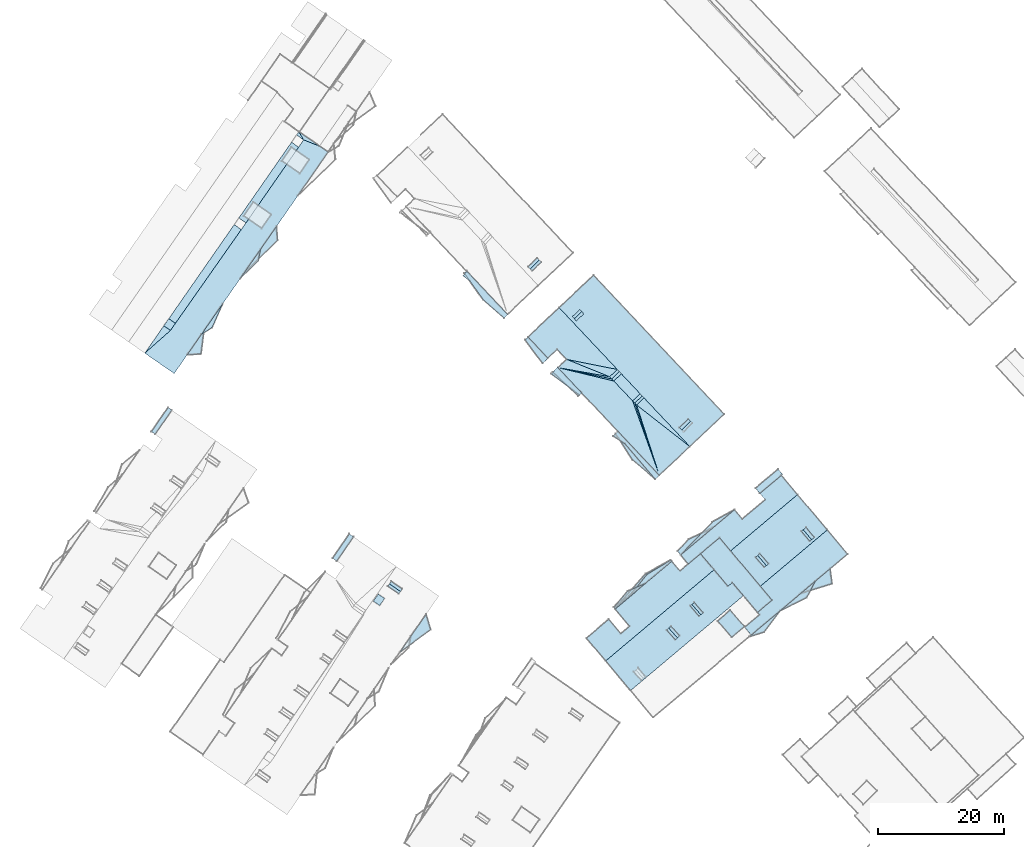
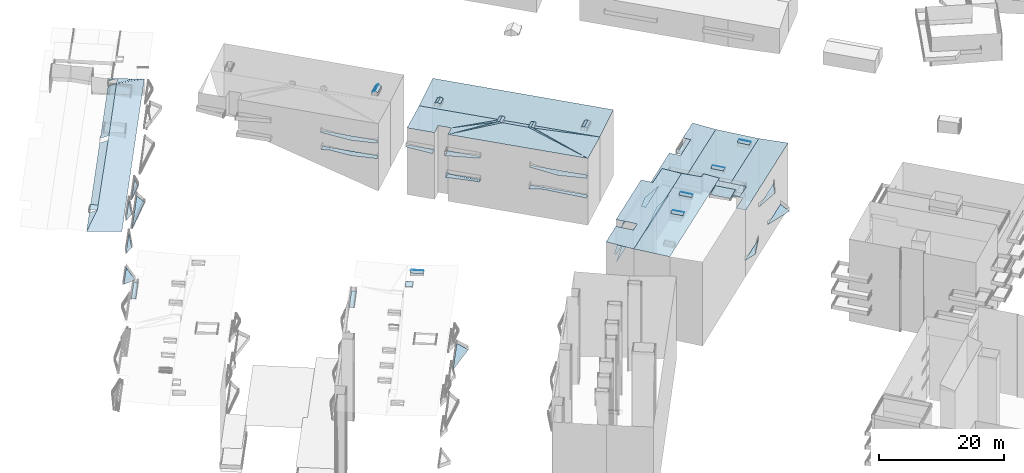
# Not in any storey, part 130 of 136: 111 roofs.
"""IFC2X3 building model written with IfcOpenShell, lengths in metres."""

from ifc_helpers import new_model, entity, si_unit, converted_unit, frame, origin, place, context, subcontext, project, spatial, face_set, surface_model, element, save


model = new_model("IFC2X3")

# Units and contexts
model_context = context("Model", 3, precision=1e-05, world=origin())
body_context = subcontext(model_context, "Body", "Model", "MODEL_VIEW")
ifc_project = project(units=[converted_unit("PLANEANGLEUNIT", "DEGREE", entity("IfcRatioMeasure", 0.0174532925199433), si_unit("PLANEANGLEUNIT", "RADIAN"), dimensions=[0, 0, 0, 0, 0, 0, 0]), si_unit("AREAUNIT", "SQUARE_METRE"), si_unit("LENGTHUNIT", "METRE")], contexts=[model_context])

# Site, building
site_placement = place(None, origin())
site = spatial("IfcSite", under=ifc_project, at=site_placement, Name="_site", CompositionType="ELEMENT")
building_1_placement = place(site_placement, origin())
building_1 = spatial("IfcBuilding", under=site, at=building_1_placement, Name="_building", CompositionType="ELEMENT")

# Roofs
for number, where, name in (
    (1, (0.0, 0.0, 0.0), "Roof"),
    (2, (0.0, 0.0, 0.0), "Roof"),
):
    element("IfcRoof", number, at=place(building_1_placement, frame(where)), inside=building_1, Name=name, ShapeType="NOTDEFINED", context=body_context, shape_type="SurfaceModel", body=[
        surface_model("IfcFaceBasedSurfaceModel", [(26.69, 109.49, 51.65), (27.87, 110.61, 51.65), (27.56, 110.94, 51.47), (26.38, 109.82, 51.47)], [face_set([[[0, 1, 2, 3]]])]),
    ])
for number, where, name in (
    (3, (0.0, 0.0, 0.0), "Roof"),
    (4, (0.0, 0.0, 0.0), "Roof"),
):
    element("IfcRoof", number, at=place(building_1_placement, frame(where)), inside=building_1, Name=name, ShapeType="NOTDEFINED", context=body_context, shape_type="SurfaceModel", body=[
        surface_model("IfcFaceBasedSurfaceModel", [(26.69, 109.49, 51.65), (27.02, 109.14, 51.49), (28.2, 110.26, 51.49), (27.87, 110.61, 51.65)], [face_set([[[0, 1, 2, 3]]])]),
    ])
roof_1_placement = place(building_1_placement, origin())
element("IfcRoof", 5, at=roof_1_placement, inside=building_1, Name="Roof", ShapeType="NOTDEFINED", context=body_context, shape_type="SurfaceModel", body=[
    surface_model("IfcFaceBasedSurfaceModel", [(44.98, 89.26, 50.8), (50.43, 94.4, 51.09), (29.77, 116.36, 51.15), (24.31, 111.23, 50.8), (33.503, 101.462, 50.8), (33.83, 101.12, 50.8), (34.149, 100.77, 50.8), (37.09, 97.64, 50.8), (37.43, 97.28, 50.8), (37.711, 96.981, 50.8)], [face_set([[[0, 1, 2, 3, 4, 5, 6, 7, 8, 9]]])]),
])
for number, where, name in (
    (6, (0.0, 0.0, 0.0), "Roof"),
    (7, (0.0, 0.0, 0.0), "Roof"),
):
    element("IfcRoof", number, at=place(building_1_placement, frame(where)), inside=building_1, Name=name, ShapeType="NOTDEFINED", context=body_context, shape_type="SurfaceModel", body=[
        surface_model("IfcFaceBasedSurfaceModel", [(45.08, 93.24, 51.69), (44.73, 93.59, 51.54), (43.33, 92.23, 51.54), (43.68, 91.88, 51.69)], [face_set([[[0, 1, 2, 3]]])]),
    ])
roof_2_placement = place(building_1_placement, origin())
element("IfcRoof", 8, at=roof_2_placement, inside=building_1, Name="Roof", ShapeType="NOTDEFINED", context=body_context, shape_type="SurfaceModel", body=[
    surface_model("IfcFaceBasedSurfaceModel", [(44.98, 89.26, 50.8), (50.43, 94.4, 51.09), (29.77, 116.36, 51.15), (24.31, 111.23, 50.8), (33.503, 101.462, 50.8), (33.83, 101.12, 50.8), (34.149, 100.77, 50.8), (37.09, 97.64, 50.8), (37.43, 97.28, 50.8), (37.711, 96.981, 50.8)], [face_set([[[0, 1, 2, 3, 4, 5, 6, 7, 8, 9]]])]),
])
for number, where, name in (
    (9, (0.0, 0.0, 0.0), "Roof"),
    (10, (0.0, 0.0, 0.0), "Roof"),
):
    element("IfcRoof", number, at=place(building_1_placement, frame(where)), inside=building_1, Name=name, ShapeType="NOTDEFINED", context=body_context, shape_type="SurfaceModel", body=[
        surface_model("IfcFaceBasedSurfaceModel", [(37.711, 96.981, 50.8), (36.56, 95.84, 51.5), (36.27, 96.13, 51.62), (35.92, 96.49, 51.48), (37.09, 97.64, 50.8), (34.149, 100.77, 50.8), (32.94, 99.63, 51.52), (32.61, 99.97, 51.64), (32.29, 100.311, 51.49), (33.503, 101.462, 50.8), (24.31, 111.23, 50.8), (19.39, 106.59, 51.02), (22.53, 103.25, 51.02), (24.01, 104.64, 51.02), (25.51, 103.05, 51.02), (24.13, 101.75, 51.02), (40.15, 84.73, 51.06), (44.98, 89.26, 50.8)], [face_set([[[0, 1, 2, 3, 4, 5, 6, 7, 8, 9, 10, 11, 12, 13, 14, 15, 16, 17]]])]),
    ])
roof_3_placement = place(building_1_placement, origin())
element("IfcRoof", 11, at=roof_3_placement, inside=building_1, Name="Roof", ShapeType="NOTDEFINED", context=body_context, shape_type="SurfaceModel", body=[
    surface_model("IfcFaceBasedSurfaceModel", [(45.08, 93.24, 51.69), (43.68, 91.88, 51.69), (43.98, 91.57, 51.48), (45.38, 92.93, 51.48)], [face_set([[[0, 1, 2, 3]]])]),
])
for number, where, name in (
    (12, (0.0, 0.0, 0.0), "Roof"),
    (13, (0.0, 0.0, 0.0), "Roof"),
):
    element("IfcRoof", number, at=place(building_1_placement, frame(where)), inside=building_1, Name=name, ShapeType="NOTDEFINED", context=body_context, shape_type="SurfaceModel", body=[
        surface_model("IfcFaceBasedSurfaceModel", [(22.53, 103.25, 47.72), (19.39, 106.59, 47.72), (18.92, 106.15, 47.72), (21.71, 102.42, 47.72)], [face_set([[[0, 1, 2, 3]]])]),
    ])
for number, where, name in (
    (14, (0.0, 0.0, 0.0), "Roof"),
    (15, (0.0, 0.0, 0.0), "Roof"),
):
    element("IfcRoof", number, at=place(building_1_placement, frame(where)), inside=building_1, Name=name, ShapeType="NOTDEFINED", context=body_context, shape_type="SurfaceModel", body=[
        surface_model("IfcFaceBasedSurfaceModel", [(27.9, 97.74, 43.37), (24.13, 101.75, 43.37), (24.07, 101.83, 43.37), (23.32, 101.04, 43.37), (27.33, 97.24, 43.37), (27.51, 97.4, 43.37)], [face_set([[[0, 1, 2, 3, 4, 5]]])]),
    ])
for number, where, name in (
    (16, (0.0, 0.0, 0.0), "Roof"),
    (17, (0.0, 0.0, 0.0), "Roof"),
):
    element("IfcRoof", number, at=place(building_1_placement, frame(where)), inside=building_1, Name=name, ShapeType="NOTDEFINED", context=body_context, shape_type="SurfaceModel", body=[
        surface_model("IfcFaceBasedSurfaceModel", [(27.9, 97.74, 47.84), (24.13, 101.75, 47.84), (24.07, 101.83, 47.84), (23.05, 100.76, 47.84), (27.51, 97.4, 47.84)], [face_set([[[0, 1, 2, 3, 4]]])]),
    ])
for number, where, name in (
    (18, (0.0, 0.0, 0.0), "Roof"),
    (19, (0.0, 0.0, 0.0), "Roof"),
):
    element("IfcRoof", number, at=place(building_1_placement, frame(where)), inside=building_1, Name=name, ShapeType="NOTDEFINED", context=body_context, shape_type="SurfaceModel", body=[
        surface_model("IfcFaceBasedSurfaceModel", [(39.52, 84.08, 43.92), (40.15, 84.73, 43.92), (33.61, 91.68, 43.92), (33.24, 91.32, 43.92), (32.86, 90.9, 43.92), (34.74, 89.67, 43.92)], [face_set([[[0, 1, 2, 3, 4, 5]]])]),
    ])
for number, where, name in (
    (20, (0.0, 0.0, 0.0), "Roof"),
    (21, (0.0, 0.0, 0.0), "Roof"),
):
    element("IfcRoof", number, at=place(building_1_placement, frame(where)), inside=building_1, Name=name, ShapeType="NOTDEFINED", context=body_context, shape_type="SurfaceModel", body=[
        surface_model("IfcFaceBasedSurfaceModel", [(33.503, 101.462, 51.49), (32.29, 100.311, 51.49), (32.61, 99.97, 51.64), (33.83, 101.12, 51.64)], [face_set([[[0, 1, 2, 3]]])]),
    ])
for number, where, name in (
    (22, (0.0, 0.0, 0.0), "Roof"),
    (23, (0.0, 0.0, 0.0), "Roof"),
):
    element("IfcRoof", number, at=place(building_1_placement, frame(where)), inside=building_1, Name=name, ShapeType="NOTDEFINED", context=body_context, shape_type="SurfaceModel", body=[
        surface_model("IfcFaceBasedSurfaceModel", [(33.83, 101.12, 51.64), (32.61, 99.97, 51.64), (32.94, 99.63, 51.52), (34.149, 100.77, 51.52)], [face_set([[[0, 1, 2, 3]]])]),
    ])
for number, where, name in (
    (24, (0.0, 0.0, 0.0), "Roof"),
    (25, (0.0, 0.0, 0.0), "Roof"),
):
    element("IfcRoof", number, at=place(building_1_placement, frame(where)), inside=building_1, Name=name, ShapeType="NOTDEFINED", context=body_context, shape_type="SurfaceModel", body=[
        surface_model("IfcFaceBasedSurfaceModel", [(37.43, 97.28, 51.62), (36.27, 96.13, 51.62), (36.56, 95.84, 51.5), (37.711, 96.981, 51.5)], [face_set([[[0, 1, 2, 3]]])]),
    ])
for number, where, name in (
    (26, (0.0, 0.0, 0.0), "Roof"),
    (27, (0.0, 0.0, 0.0), "Roof"),
):
    element("IfcRoof", number, at=place(building_1_placement, frame(where)), inside=building_1, Name=name, ShapeType="NOTDEFINED", context=body_context, shape_type="SurfaceModel", body=[
        surface_model("IfcFaceBasedSurfaceModel", [(37.09, 97.64, 51.48), (35.92, 96.49, 51.48), (36.27, 96.13, 51.62), (37.43, 97.28, 51.62)], [face_set([[[0, 1, 2, 3]]])]),
    ])
for number, where, name in (
    (28, (0.0, 0.0, 0.0), "Roof"),
    (29, (0.0, 0.0, 0.0), "Roof"),
):
    element("IfcRoof", number, at=place(building_1_placement, frame(where)), inside=building_1, Name=name, ShapeType="NOTDEFINED", context=body_context, shape_type="SurfaceModel", body=[
        surface_model("IfcFaceBasedSurfaceModel", [(39.52, 84.08, 47.78), (40.15, 84.73, 47.78), (33.61, 91.68, 47.78), (33.24, 91.32, 47.78), (35.95, 87.13, 47.78)], [face_set([[[0, 1, 2, 3, 4]]])]),
    ])

# Building
building_2_placement = place(site_placement, origin())
building_2 = spatial("IfcBuilding", under=site, at=building_2_placement, Name="_building", CompositionType="ELEMENT")

# Roofs
for number, where, name in (
    (30, (0.0, 0.0, 0.0), "Roof"),
    (31, (0.0, 0.0, 0.0), "Roof"),
):
    element("IfcRoof", number, at=place(building_2_placement, frame(where)), inside=building_2, Name=name, ShapeType="NOTDEFINED", context=body_context, shape_type="SurfaceModel", body=[
        surface_model("IfcFaceBasedSurfaceModel", [(43.01, 59.01, 55.01), (43.37, 59.33, 54.79), (42.0, 60.86, 54.79), (41.64, 60.54, 55.01)], [face_set([[[0, 1, 2, 3]]])]),
    ])
roof_4_placement = place(building_2_placement, origin())
element("IfcRoof", 32, at=roof_4_placement, inside=building_2, Name="Roof", ShapeType="NOTDEFINED", context=body_context, shape_type="SurfaceModel", body=[
    surface_model("IfcFaceBasedSurfaceModel", [(51.64, 59.08, 54.76), (53.62, 60.8, 54.76), (51.38, 63.38, 54.76), (49.4, 61.66, 54.76)], [face_set([[[0, 1, 2, 3]]])]),
])
roof_5_placement = place(building_2_placement, origin())
element("IfcRoof", 33, at=roof_5_placement, inside=building_2, Name="Roof", ShapeType="NOTDEFINED", context=body_context, shape_type="SurfaceModel", body=[
    surface_model("IfcFaceBasedSurfaceModel", [(43.01, 59.01, 55.01), (41.64, 60.54, 55.01), (41.31, 60.24, 54.74), (42.68, 58.71, 54.74)], [face_set([[[0, 1, 2, 3]]])]),
])
roof_6_placement = place(building_2_placement, origin())
element("IfcRoof", 34, at=roof_6_placement, inside=building_2, Name="Roof", ShapeType="NOTDEFINED", context=body_context, shape_type="SurfaceModel", body=[
    surface_model("IfcFaceBasedSurfaceModel", [(48.819, 69.779, 54.15), (48.43, 70.24, 54.181), (46.68, 72.311, 54.32), (44.75, 70.68, 54.37), (43.43, 69.58, 54.41), (42.13, 71.12, 54.41), (33.15, 63.57, 54.41), (35.46, 60.82, 54.41), (34.08, 59.65, 54.41), (32.17, 61.93, 54.41), (28.64, 58.96, 54.41), (31.68, 55.36, 54.15)], [face_set([[[0, 1, 2, 3, 4, 5, 6, 7, 8, 9, 10, 11]]])]),
])
for number, where, name in (
    (35, (0.0, 0.0, 0.0), "Roof"),
    (36, (0.0, 0.0, 0.0), "Roof"),
):
    element("IfcRoof", number, at=place(building_2_placement, frame(where)), inside=building_2, Name=name, ShapeType="NOTDEFINED", context=body_context, shape_type="SurfaceModel", body=[
        surface_model("IfcFaceBasedSurfaceModel", [(46.71, 62.67, 55.0), (47.08, 62.99, 54.79), (45.68, 64.601, 54.79), (45.31, 64.28, 55.0)], [face_set([[[0, 1, 2, 3]]])]),
    ])
roof_7_placement = place(building_2_placement, origin())
element("IfcRoof", 37, at=roof_7_placement, inside=building_2, Name="Roof", ShapeType="NOTDEFINED", context=body_context, shape_type="SurfaceModel", body=[
    surface_model("IfcFaceBasedSurfaceModel", [(48.819, 69.779, 54.15), (48.43, 70.24, 54.181), (46.68, 72.311, 54.32), (44.75, 70.68, 54.37), (43.43, 69.58, 54.41), (42.13, 71.12, 54.41), (33.15, 63.57, 54.41), (35.46, 60.82, 54.41), (34.08, 59.65, 54.41), (32.17, 61.93, 54.41), (28.64, 58.96, 54.41), (31.68, 55.36, 54.15)], [face_set([[[0, 1, 2, 3, 4, 5, 6, 7, 8, 9, 10, 11]]])]),
])
for number, where, name in (
    (38, (0.0, 0.0, 0.0), "Roof"),
    (39, (0.0, 0.0, 0.0), "Roof"),
):
    element("IfcRoof", number, at=place(building_2_placement, frame(where)), inside=building_2, Name=name, ShapeType="NOTDEFINED", context=body_context, shape_type="SurfaceModel", body=[
        surface_model("IfcFaceBasedSurfaceModel", [(64.24, 74.521, 51.91), (64.69, 74.89, 51.65), (63.37, 76.48, 51.65), (62.92, 76.11, 51.91)], [face_set([[[0, 1, 2, 3]]])]),
    ])
for number, where, name in (
    (40, (0.0, 0.0, 0.0), "Roof"),
    (41, (0.0, 0.0, 0.0), "Roof"),
):
    element("IfcRoof", number, at=place(building_2_placement, frame(where)), inside=building_2, Name=name, ShapeType="NOTDEFINED", context=body_context, shape_type="SurfaceModel", body=[
        surface_model("IfcFaceBasedSurfaceModel", [(62.02, 81.67, 50.91), (59.47, 84.71, 51.23), (56.06, 81.84, 51.23), (56.91, 80.83, 51.23), (53.3, 77.8, 51.23), (52.05, 79.28, 51.23), (43.54, 72.12, 51.23), (44.75, 70.68, 51.23), (46.68, 72.311, 51.2), (48.43, 70.24, 50.91)], [face_set([[[0, 1, 2, 3, 4, 5, 6, 7, 8, 9]]])]),
    ])
for number, where, name in (
    (42, (0.0, 0.0, 0.0), "Roof"),
    (43, (0.0, 0.0, 0.0), "Roof"),
):
    element("IfcRoof", number, at=place(building_2_placement, frame(where)), inside=building_2, Name=name, ShapeType="NOTDEFINED", context=body_context, shape_type="SurfaceModel", body=[
        surface_model("IfcFaceBasedSurfaceModel", [(57.09, 70.43, 51.88), (57.44, 70.73, 51.63), (56.05, 72.33, 51.63), (55.71, 72.03, 51.88)], [face_set([[[0, 1, 2, 3]]])]),
    ])
roof_8_placement = place(building_2_placement, origin())
element("IfcRoof", 44, at=roof_8_placement, inside=building_2, Name="Roof", ShapeType="NOTDEFINED", context=body_context, shape_type="SurfaceModel", body=[
    surface_model("IfcFaceBasedSurfaceModel", [(66.73, 76.08, 50.88), (62.02, 81.67, 50.91), (48.43, 70.24, 50.91), (48.819, 69.779, 50.954), (51.01, 67.17, 51.2), (51.71, 67.75, 51.2), (53.458, 65.678, 50.937), (53.832, 65.231, 50.88)], [face_set([[[0, 1, 2, 3, 4, 5, 6, 7]]])]),
])
roof_9_placement = place(building_2_placement, origin())
element("IfcRoof", 45, at=roof_9_placement, inside=building_2, Name="Roof", ShapeType="NOTDEFINED", context=body_context, shape_type="SurfaceModel", body=[
    surface_model("IfcFaceBasedSurfaceModel", [(57.09, 70.43, 51.88), (55.71, 72.03, 51.88), (55.38, 71.75, 51.61), (56.77, 70.15, 51.61)], [face_set([[[0, 1, 2, 3]]])]),
])
roof_10_placement = place(building_2_placement, origin())
element("IfcRoof", 46, at=roof_10_placement, inside=building_2, Name="Roof", ShapeType="NOTDEFINED", context=body_context, shape_type="SurfaceModel", body=[
    surface_model("IfcFaceBasedSurfaceModel", [(66.73, 76.08, 50.88), (62.02, 81.67, 50.91), (48.43, 70.24, 50.91), (48.819, 69.779, 50.954), (51.01, 67.17, 51.2), (51.71, 67.75, 51.2), (53.458, 65.678, 50.937), (53.832, 65.231, 50.88)], [face_set([[[0, 1, 2, 3, 4, 5, 6, 7]]])]),
])
roof_11_placement = place(building_2_placement, origin())
element("IfcRoof", 47, at=roof_11_placement, inside=building_2, Name="Roof", ShapeType="NOTDEFINED", context=body_context, shape_type="SurfaceModel", body=[
    surface_model("IfcFaceBasedSurfaceModel", [(53.832, 65.231, 50.88), (56.01, 62.64, 51.2), (53.66, 60.67, 51.2), (54.7, 59.43, 51.2), (69.94, 72.26, 51.2), (66.73, 76.08, 50.88)], [face_set([[[0, 1, 2, 3, 4, 5]]])]),
])
for number, where, name in (
    (48, (0.0, 0.0, 0.0), "Roof"),
    (49, (0.0, 0.0, 0.0), "Roof"),
):
    element("IfcRoof", number, at=place(building_2_placement, frame(where)), inside=building_2, Name=name, ShapeType="NOTDEFINED", context=body_context, shape_type="SurfaceModel", body=[
        surface_model("IfcFaceBasedSurfaceModel", [(53.458, 65.678, 54.1), (51.71, 67.75, 54.32), (51.01, 67.17, 54.32), (48.819, 69.779, 54.15), (31.68, 55.36, 54.15), (35.62, 50.67, 54.1)], [face_set([[[0, 1, 2, 3, 4, 5]]])]),
    ])
for number, where, name in (
    (50, (0.0, 0.0, 0.0), "Roof"),
    (51, (0.0, 0.0, 0.0), "Roof"),
):
    element("IfcRoof", number, at=place(building_2_placement, frame(where)), inside=building_2, Name=name, ShapeType="NOTDEFINED", context=body_context, shape_type="SurfaceModel", body=[
        surface_model("IfcFaceBasedSurfaceModel", [(63.95, 74.28, 51.65), (64.24, 74.521, 51.91), (62.92, 76.11, 51.91), (62.63, 75.87, 51.65)], [face_set([[[0, 1, 2, 3]]])]),
    ])
roof_12_placement = place(building_2_placement, origin())
element("IfcRoof", 52, at=roof_12_placement, inside=building_2, Name="Roof", ShapeType="NOTDEFINED", context=body_context, shape_type="SurfaceModel", body=[
    surface_model("IfcFaceBasedSurfaceModel", [(57.09, 70.43, 51.88), (55.71, 72.03, 51.88), (55.38, 71.75, 51.61), (56.77, 70.15, 51.61)], [face_set([[[0, 1, 2, 3]]])]),
])
for number, where, name in (
    (53, (0.0, 0.0, 0.0), "Roof"),
    (54, (0.0, 0.0, 0.0), "Roof"),
):
    element("IfcRoof", number, at=place(building_2_placement, frame(where)), inside=building_2, Name=name, ShapeType="NOTDEFINED", context=body_context, shape_type="SurfaceModel", body=[
        surface_model("IfcFaceBasedSurfaceModel", [(46.71, 62.67, 55.0), (45.31, 64.28, 55.0), (45.04, 64.04, 54.71), (46.44, 62.43, 54.71)], [face_set([[[0, 1, 2, 3]]])]),
    ])
roof_13_placement = place(building_2_placement, origin())
element("IfcRoof", 55, at=roof_13_placement, inside=building_2, Name="Roof", ShapeType="NOTDEFINED", context=body_context, shape_type="SurfaceModel", body=[
    surface_model("IfcFaceBasedSurfaceModel", [(43.01, 59.01, 55.01), (41.64, 60.54, 55.01), (41.31, 60.24, 54.74), (42.68, 58.71, 54.74)], [face_set([[[0, 1, 2, 3]]])]),
])
roof_14_placement = place(building_2_placement, origin())
element("IfcRoof", 56, at=roof_14_placement, inside=building_2, Name="Roof", ShapeType="NOTDEFINED", context=body_context, shape_type="SurfaceModel", body=[
    surface_model("IfcFaceBasedSurfaceModel", [(51.64, 59.08, 54.76), (53.62, 60.8, 54.76), (51.38, 63.38, 54.76), (49.4, 61.66, 54.76)], [face_set([[[0, 1, 2, 3]]])]),
])
for number, where, name in (
    (57, (0.0, 0.0, 0.0), "Roof"),
    (58, (0.0, 0.0, 0.0), "Roof"),
):
    element("IfcRoof", number, at=place(building_2_placement, frame(where)), inside=building_2, Name=name, ShapeType="NOTDEFINED", context=body_context, shape_type="SurfaceModel", body=[
        surface_model("IfcFaceBasedSurfaceModel", [(59.27, 63.28, 41.61), (54.35, 59.14, 41.61), (56.71, 59.92, 41.61)], [face_set([[[0, 1, 2]]])]),
    ])
for number, where, name in (
    (59, (0.0, 0.0, 0.0), "Roof"),
    (60, (0.0, 0.0, 0.0), "Roof"),
):
    element("IfcRoof", number, at=place(building_2_placement, frame(where)), inside=building_2, Name=name, ShapeType="NOTDEFINED", context=body_context, shape_type="SurfaceModel", body=[
        surface_model("IfcFaceBasedSurfaceModel", [(33.15, 63.57, 47.57), (37.91, 67.58, 47.57), (35.14, 66.39, 47.57), (32.95, 63.811, 47.57)], [face_set([[[0, 1, 2, 3]]])]),
    ])
for number, where, name in (
    (61, (0.0, 0.0, 0.0), "Roof"),
    (62, (0.0, 0.0, 0.0), "Roof"),
):
    element("IfcRoof", number, at=place(building_2_placement, frame(where)), inside=building_2, Name=name, ShapeType="NOTDEFINED", context=body_context, shape_type="SurfaceModel", body=[
        surface_model("IfcFaceBasedSurfaceModel", [(43.54, 72.12, 43.12), (52.05, 79.28, 43.12), (48.56, 77.32, 43.12)], [face_set([[[0, 1, 2]]])]),
    ])
for number, where, name in (
    (63, (0.0, 0.0, 0.0), "Roof"),
    (64, (0.0, 0.0, 0.0), "Roof"),
):
    element("IfcRoof", number, at=place(building_2_placement, frame(where)), inside=building_2, Name=name, ShapeType="NOTDEFINED", context=body_context, shape_type="SurfaceModel", body=[
        surface_model("IfcFaceBasedSurfaceModel", [(43.04, 72.69, 47.93), (43.54, 72.12, 47.93), (48.63, 76.4, 47.93), (44.81, 74.59, 47.93)], [face_set([[[0, 1, 2, 3]]])]),
    ])
for number, where, name in (
    (65, (0.0, 0.0, 0.0), "Roof"),
    (66, (0.0, 0.0, 0.0), "Roof"),
):
    element("IfcRoof", number, at=place(building_2_placement, frame(where)), inside=building_2, Name=name, ShapeType="NOTDEFINED", context=body_context, shape_type="SurfaceModel", body=[
        surface_model("IfcFaceBasedSurfaceModel", [(37.97, 69.101, 45.95), (33.15, 63.57, 45.95), (42.13, 71.12, 45.95), (41.98, 71.311, 45.95)], [face_set([[[0, 1, 2, 3]]])]),
    ])
for number, where, name in (
    (67, (0.0, 0.0, 0.0), "Roof"),
    (68, (0.0, 0.0, 0.0), "Roof"),
):
    element("IfcRoof", number, at=place(building_2_placement, frame(where)), inside=building_2, Name=name, ShapeType="NOTDEFINED", context=body_context, shape_type="SurfaceModel", body=[
        surface_model("IfcFaceBasedSurfaceModel", [(67.18, 69.94, 41.61), (62.5, 66.0, 41.61), (67.48, 67.561, 41.61)], [face_set([[[0, 1, 2]]])]),
    ])
for number, where, name in (
    (69, (0.0, 0.0, 0.0), "Roof"),
    (70, (0.0, 0.0, 0.0), "Roof"),
):
    element("IfcRoof", number, at=place(building_2_placement, frame(where)), inside=building_2, Name=name, ShapeType="NOTDEFINED", context=body_context, shape_type="SurfaceModel", body=[
        surface_model("IfcFaceBasedSurfaceModel", [(55.37, 82.66, 47.93), (56.06, 81.84, 47.93), (59.47, 84.71, 47.93), (59.64, 84.86, 47.93), (58.96, 85.68, 47.93)], [face_set([[[0, 1, 2, 3, 4]]])]),
    ])
for number, where, name in (
    (71, (0.0, 0.0, 0.0), "Roof"),
    (72, (0.0, 0.0, 0.0), "Roof"),
):
    element("IfcRoof", number, at=place(building_2_placement, frame(where)), inside=building_2, Name=name, ShapeType="NOTDEFINED", context=body_context, shape_type="SurfaceModel", body=[
        surface_model("IfcFaceBasedSurfaceModel", [(33.15, 63.57, 51.18), (42.13, 71.12, 51.18), (41.98, 71.311, 51.18), (38.17, 69.0, 51.18), (35.39, 65.55, 51.18), (32.95, 63.811, 51.18)], [face_set([[[0, 1, 2, 3, 4, 5]]])]),
    ])
for number, where, name in (
    (73, (0.0, 0.0, 0.0), "Roof"),
    (74, (0.0, 0.0, 0.0), "Roof"),
):
    element("IfcRoof", number, at=place(building_2_placement, frame(where)), inside=building_2, Name=name, ShapeType="NOTDEFINED", context=body_context, shape_type="SurfaceModel", body=[
        surface_model("IfcFaceBasedSurfaceModel", [(51.01, 67.17, 51.314), (51.71, 67.75, 51.314), (55.7, 63.021, 51.314), (58.0, 64.96, 51.314), (49.69, 74.84, 51.314), (46.68, 72.311, 51.314)], [face_set([[[0, 1, 2, 3, 4, 5]]])]),
    ])
for number, where, name in (
    (75, (0.0, 0.0, 0.0), "Roof"),
    (76, (0.0, 0.0, 0.0), "Roof"),
):
    element("IfcRoof", number, at=place(building_2_placement, frame(where)), inside=building_2, Name=name, ShapeType="NOTDEFINED", context=body_context, shape_type="SurfaceModel", body=[
        surface_model("IfcFaceBasedSurfaceModel", [(64.83, 67.96, 47.81), (59.27, 63.28, 47.81), (63.47, 65.351, 47.81)], [face_set([[[0, 1, 2]]])]),
    ])
roof_15_placement = place(building_2_placement, origin())
element("IfcRoof", 77, at=roof_15_placement, inside=building_2, Name="Roof", ShapeType="NOTDEFINED", context=body_context, shape_type="SurfaceModel", body=[
    surface_model("IfcFaceBasedSurfaceModel", [(53.832, 65.231, 50.88), (56.01, 62.64, 51.2), (53.66, 60.67, 51.2), (54.7, 59.43, 51.2), (69.94, 72.26, 51.2), (66.73, 76.08, 50.88)], [face_set([[[0, 1, 2, 3, 4, 5]]])]),
])

# Building
building_3_placement = place(site_placement, origin())
building_3 = spatial("IfcBuilding", under=site, at=building_3_placement, Name="_building", CompositionType="ELEMENT")

# Roofs
for number, where, name in (
    (78, (0.0, 0.0, 0.0), "Roof"),
    (79, (0.0, 0.0, 0.0), "Roof"),
):
    element("IfcRoof", number, at=place(building_3_placement, frame(where)), inside=building_3, Name=name, ShapeType="NOTDEFINED", context=body_context, shape_type="SurfaceModel", body=[
        surface_model("IfcFaceBasedSurfaceModel", [(-0.81, 66.33, 54.52), (-0.54, 66.73, 54.35), (-2.26, 67.92, 54.35), (-2.53, 67.53, 54.52)], [face_set([[[0, 1, 2, 3]]])]),
    ])
roof_16_placement = place(building_3_placement, origin())
element("IfcRoof", 80, at=roof_16_placement, inside=building_3, Name="Roof", ShapeType="NOTDEFINED", context=body_context, shape_type="SurfaceModel", body=[
    surface_model("IfcFaceBasedSurfaceModel", [(-0.81, 66.33, 54.52), (-2.53, 67.53, 54.52), (-2.79, 67.15, 54.35), (-1.07, 65.96, 54.35)], [face_set([[[0, 1, 2, 3]]])]),
])
roof_17_placement = place(building_3_placement, origin())
element("IfcRoof", 81, at=roof_17_placement, inside=building_3, Name="Roof", ShapeType="NOTDEFINED", context=body_context, shape_type="SurfaceModel", body=[
    surface_model("IfcFaceBasedSurfaceModel", [(-8.21, 74.97, 48.01), (-8.87, 75.43, 48.01), (-11.53, 71.59, 48.01), (-10.87, 71.13, 48.01)], [face_set([[[0, 1, 2, 3]]])]),
])
roof_18_placement = place(building_3_placement, origin())
element("IfcRoof", 82, at=roof_18_placement, inside=building_3, Name="Roof", ShapeType="NOTDEFINED", context=body_context, shape_type="SurfaceModel", body=[
    surface_model("IfcFaceBasedSurfaceModel", [(-0.81, 66.33, 54.52), (-2.53, 67.53, 54.52), (-2.79, 67.15, 54.35), (-1.07, 65.96, 54.35)], [face_set([[[0, 1, 2, 3]]])]),
])
roof_19_placement = place(building_3_placement, origin())
element("IfcRoof", 83, at=roof_19_placement, inside=building_3, Name="Roof", ShapeType="NOTDEFINED", context=body_context, shape_type="SurfaceModel", body=[
    surface_model("IfcFaceBasedSurfaceModel", [(-8.21, 74.97, 48.01), (-8.87, 75.43, 48.01), (-11.53, 71.59, 48.01), (-10.87, 71.13, 48.01)], [face_set([[[0, 1, 2, 3]]])]),
])
for number, where, name in (
    (84, (0.0, 0.0, 0.0), "Roof"),
    (85, (0.0, 0.0, 0.0), "Roof"),
):
    element("IfcRoof", number, at=place(building_3_placement, frame(where)), inside=building_3, Name=name, ShapeType="NOTDEFINED", context=body_context, shape_type="SurfaceModel", body=[
        surface_model("IfcFaceBasedSurfaceModel", [(-4.32, 65.92, 54.02), (-5.1, 64.8, 54.02), (-4.1, 64.11, 54.02), (-3.32, 65.23, 54.02)], [face_set([[[0, 1, 2, 3]]])]),
    ])
for number, where, name in (
    (86, (0.0, 0.0, 0.0), "Roof"),
    (87, (0.0, 0.0, 0.0), "Roof"),
):
    element("IfcRoof", number, at=place(building_3_placement, frame(where)), inside=building_3, Name=name, ShapeType="NOTDEFINED", context=body_context, shape_type="SurfaceModel", body=[
        surface_model("IfcFaceBasedSurfaceModel", [(0.85, 59.25, 41.18), (-0.93, 56.68, 41.18), (3.99, 60.311, 41.18), (3.26, 62.73, 41.18)], [face_set([[[0, 1, 2, 3]]])]),
    ])

# Building
building_4_placement = place(site_placement, origin())
building_4 = spatial("IfcBuilding", under=site, at=building_4_placement, Name="_building", CompositionType="ELEMENT")

# Roofs
for number, where, name in (
    (88, (0.0, 0.0, 0.0), "Roof"),
    (89, (0.0, 0.0, 0.0), "Roof"),
):
    element("IfcRoof", number, at=place(building_4_placement, frame(where)), inside=building_4, Name=name, ShapeType="NOTDEFINED", context=body_context, shape_type="SurfaceModel", body=[
        surface_model("IfcFaceBasedSurfaceModel", [(21.48, 118.42, 51.29), (21.16, 118.75, 51.62), (19.72, 117.38, 51.62), (20.03, 117.05, 51.29)], [face_set([[[0, 1, 2, 3]]])]),
    ])
for number, where, name in (
    (90, (0.0, 0.0, 0.0), "Roof"),
    (91, (0.0, 0.0, 0.0), "Roof"),
):
    element("IfcRoof", number, at=place(building_4_placement, frame(where)), inside=building_4, Name=name, ShapeType="NOTDEFINED", context=body_context, shape_type="SurfaceModel", body=[
        surface_model("IfcFaceBasedSurfaceModel", [(21.16, 118.75, 51.62), (20.84, 119.09, 51.29), (19.4, 117.72, 51.29), (19.72, 117.38, 51.62)], [face_set([[[0, 1, 2, 3]]])]),
    ])
for number, where, name in (
    (92, (0.0, 0.0, 0.0), "Roof"),
    (93, (0.0, 0.0, 0.0), "Roof"),
):
    element("IfcRoof", number, at=place(building_4_placement, frame(where)), inside=building_4, Name=name, ShapeType="NOTDEFINED", context=body_context, shape_type="SurfaceModel", body=[
        surface_model("IfcFaceBasedSurfaceModel", [(9.79, 116.93, 44.55), (9.06, 116.3, 44.55), (10.21, 115.43, 44.55), (12.31, 112.46, 44.55), (15.58, 109.58, 44.55), (16.14, 110.17, 44.55)], [face_set([[[0, 1, 2, 3, 4, 5]]])]),
    ])
for number, where, name in (
    (94, (0.0, 0.0, 0.0), "Roof"),
    (95, (0.0, 0.0, 0.0), "Roof"),
):
    element("IfcRoof", number, at=place(building_4_placement, frame(where)), inside=building_4, Name=name, ShapeType="NOTDEFINED", context=body_context, shape_type="SurfaceModel", body=[
        surface_model("IfcFaceBasedSurfaceModel", [(16.14, 110.17, 47.54), (9.68, 117.05, 47.54), (9.31, 116.71, 47.54), (12.31, 112.46, 47.54), (15.58, 109.58, 47.54)], [face_set([[[0, 1, 2, 3, 4]]])]),
    ])

# Building
building_5_placement = place(site_placement, origin())
building_5 = spatial("IfcBuilding", under=site, at=building_5_placement, Name="_building", CompositionType="ELEMENT")

# Roofs
for number, where, name in (
    (96, (0.0, 0.0, 0.0), "Roof"),
    (97, (0.0, 0.0, 0.0), "Roof"),
):
    element("IfcRoof", number, at=place(building_5_placement, frame(where)), inside=building_5, Name=name, ShapeType="NOTDEFINED", context=body_context, shape_type="SurfaceModel", body=[
        surface_model("IfcFaceBasedSurfaceModel", [(-32.29, 107.021, 50.71), (-30.61, 108.09, 50.71), (-28.9, 111.89, 50.71), (-31.88, 107.61, 50.71)], [face_set([[[0, 1, 2, 3]]])]),
    ])
for number, where, name in (
    (98, (0.0, 0.0, 0.0), "Roof"),
    (99, (0.0, 0.0, 0.0), "Roof"),
):
    element("IfcRoof", number, at=place(building_5_placement, frame(where)), inside=building_5, Name=name, ShapeType="NOTDEFINED", context=body_context, shape_type="SurfaceModel", body=[
        surface_model("IfcFaceBasedSurfaceModel", [(-32.29, 107.021, 44.27), (-30.61, 108.09, 44.27), (-28.9, 111.89, 44.27), (-31.88, 107.61, 44.27)], [face_set([[[0, 1, 2, 3]]])]),
    ])
for number, where, name in (
    (100, (0.0, 0.0, 0.0), "Roof"),
    (101, (0.0, 0.0, 0.0), "Roof"),
):
    element("IfcRoof", number, at=place(building_5_placement, frame(where)), inside=building_5, Name=name, ShapeType="NOTDEFINED", context=body_context, shape_type="SurfaceModel", body=[
        surface_model("IfcFaceBasedSurfaceModel", [(-32.35, 103.91, 41.08), (-31.88, 107.61, 41.08), (-32.29, 107.021, 41.08), (-34.56, 103.76, 41.08)], [face_set([[[0, 1, 2, 3]]])]),
    ])
roof_20_placement = place(building_5_placement, origin())
element("IfcRoof", 102, at=roof_20_placement, inside=building_5, Name="Roof", ShapeType="NOTDEFINED", context=body_context, shape_type="SurfaceModel", body=[
    surface_model("IfcFaceBasedSurfaceModel", [(-41.26, 104.04, 53.58), (-36.61, 100.811, 53.93), (-12.24, 135.84, 53.93), (-13.62, 136.8, 53.826), (-16.89, 139.07, 53.58), (-17.248, 138.56, 53.58), (-16.13, 137.78, 54.2), (-16.92, 136.64, 54.2), (-18.039, 137.419, 53.58), (-26.373, 125.432, 53.58), (-25.25, 124.65, 54.2), (-25.99, 123.601, 54.2), (-27.11, 124.38, 53.58), (-37.463, 109.492, 53.58), (-36.41, 108.76, 54.2), (-37.19, 107.64, 54.2), (-38.249, 108.369, 53.58)], [face_set([[[0, 1, 2, 3, 4, 5, 6, 7, 8, 9, 10, 11, 12, 13, 14, 15, 16]]])]),
])
for number, where, name in (
    (103, (0.0, 0.0, 0.0), "Roof"),
    (104, (0.0, 0.0, 0.0), "Roof"),
):
    element("IfcRoof", number, at=place(building_5_placement, frame(where)), inside=building_5, Name=name, ShapeType="NOTDEFINED", context=body_context, shape_type="SurfaceModel", body=[
        surface_model("IfcFaceBasedSurfaceModel", [(-22.92, 120.5, 47.36), (-26.19, 115.8, 47.36), (-23.3, 118.65, 47.36)], [face_set([[[0, 1, 2]]])]),
    ])
for number, where, name in (
    (105, (0.0, 0.0, 0.0), "Roof"),
    (106, (0.0, 0.0, 0.0), "Roof"),
):
    element("IfcRoof", number, at=place(building_5_placement, frame(where)), inside=building_5, Name=name, ShapeType="NOTDEFINED", context=body_context, shape_type="SurfaceModel", body=[
        surface_model("IfcFaceBasedSurfaceModel", [(-22.92, 120.5, 41.07), (-25.68, 116.53, 41.07), (-20.25, 121.92, 41.07), (-20.4, 124.12, 41.07)], [face_set([[[0, 1, 2, 3]]])]),
    ])
roof_21_placement = place(building_5_placement, origin())
element("IfcRoof", 107, at=roof_21_placement, inside=building_5, Name="Roof", ShapeType="NOTDEFINED", context=body_context, shape_type="SurfaceModel", body=[
    surface_model("IfcFaceBasedSurfaceModel", [(-41.26, 104.04, 53.58), (-36.61, 100.811, 53.93), (-12.24, 135.84, 53.93), (-13.62, 136.8, 53.826), (-16.89, 139.07, 53.58), (-17.248, 138.56, 53.58), (-16.13, 137.78, 54.2), (-16.92, 136.64, 54.2), (-18.039, 137.419, 53.58), (-26.373, 125.432, 53.58), (-25.25, 124.65, 54.2), (-25.99, 123.601, 54.2), (-27.11, 124.38, 53.58), (-37.463, 109.492, 53.58), (-36.41, 108.76, 54.2), (-37.19, 107.64, 54.2), (-38.249, 108.369, 53.58)], [face_set([[[0, 1, 2, 3, 4, 5, 6, 7, 8, 9, 10, 11, 12, 13, 14, 15, 16]]])]),
])
for number, where, name in (
    (108, (0.0, 0.0, 0.0), "Roof"),
    (109, (0.0, 0.0, 0.0), "Roof"),
):
    element("IfcRoof", number, at=place(building_5_placement, frame(where)), inside=building_5, Name=name, ShapeType="NOTDEFINED", context=body_context, shape_type="SurfaceModel", body=[
        surface_model("IfcFaceBasedSurfaceModel", [(-38.249, 108.369, 54.2), (-37.19, 107.64, 54.2), (-36.41, 108.76, 54.2), (-37.463, 109.492, 54.2)], [face_set([[[0, 1, 2, 3]]])]),
    ])

# Building
building_6_placement = place(site_placement, origin())
building_6 = spatial("IfcBuilding", under=site, at=building_6_placement, Name="_building", CompositionType="ELEMENT")

# Roofs
for number, where, name in (
    (110, (0.0, 0.0, 0.0), "Roof"),
    (111, (0.0, 0.0, 0.0), "Roof"),
):
    element("IfcRoof", number, at=place(building_6_placement, frame(where)), inside=building_6, Name=name, ShapeType="NOTDEFINED", context=body_context, shape_type="SurfaceModel", body=[
        surface_model("IfcFaceBasedSurfaceModel", [(-36.96, 95.01, 47.55), (-37.56, 95.43, 47.55), (-40.2, 91.63, 47.55), (-39.6, 91.21, 47.55)], [face_set([[[0, 1, 2, 3]]])]),
    ])

save(model, "model.ifc")
